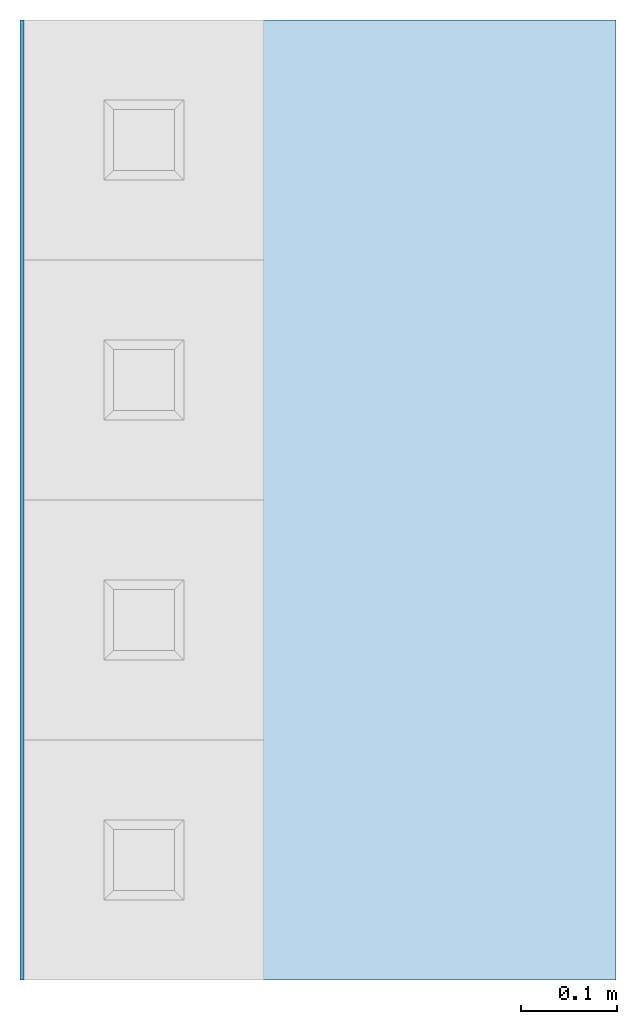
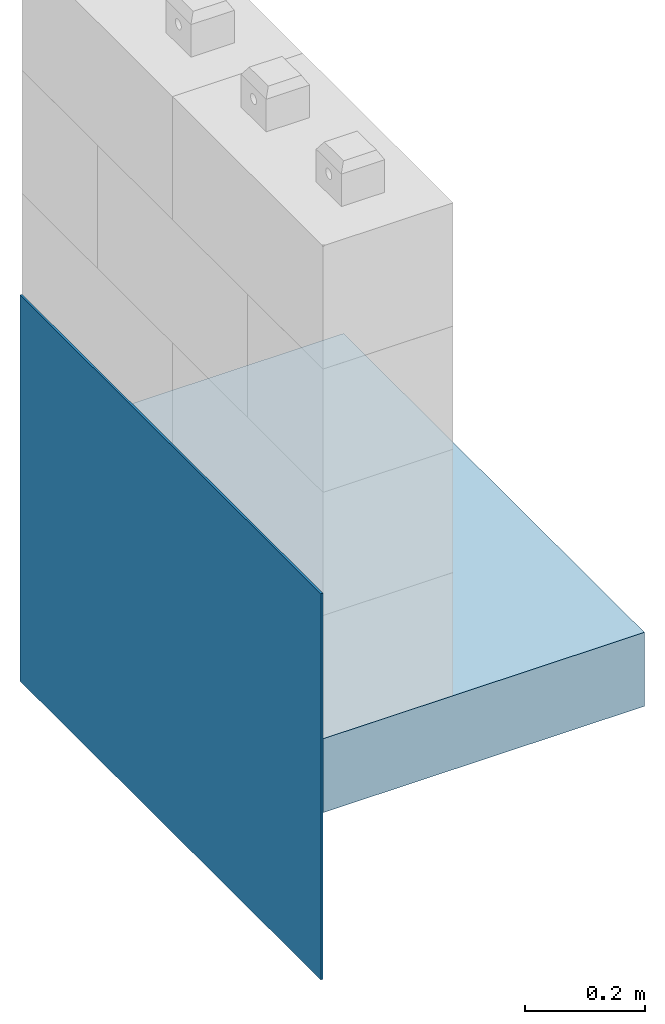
# One storey, incomplete: 1 slab, 1 wall.
"""IFC4 building model written with IfcOpenShell, lengths in centimetres."""

from ifc_helpers import new_model, entity, si_unit, converted_unit, direction, frame, origin, place, context, subcontext, project, spatial, indexed_curve, outline, extrude, material, constituent, constituent_set, type_object, element, save


model = new_model("IFC4")

# Units and contexts
model_context = context("Model", 3, precision=0.001, world=origin(), true_north=direction((0.0, 1.0)))
body_context = subcontext(model_context, "Body", "Model", "MODEL_VIEW")
ifc_project = project(units=[si_unit("LENGTHUNIT", "METRE", prefix="CENTI"), si_unit("AREAUNIT", "SQUARE_METRE"), si_unit("VOLUMEUNIT", "CUBIC_METRE"), converted_unit("PLANEANGLEUNIT", "DEGREE", entity("IfcPlaneAngleMeasure", 0.017453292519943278), si_unit("PLANEANGLEUNIT", "RADIAN"), dimensions=[0, 0, 0, 0, 0, 0, 0])], contexts=[model_context])

# Site, building, storey
site_placement = place(None, origin())
site = spatial("IfcSite", under=ifc_project, at=site_placement, Name="Default", CompositionType="ELEMENT")
building_placement = place(site_placement, origin())
building = spatial("IfcBuilding", under=site, at=building_placement, CompositionType="ELEMENT")
storey_placement = place(building_placement, frame((0.0, 0.0, -12.0)))
storey = spatial("IfcBuildingStorey", under=building, at=storey_placement, Name="L00__ABOVE Slab", CompositionType="ELEMENT", Elevation=-12.000000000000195)

# Slab
ifc_material_1 = material(Name="_STRUCTURE__Reinforced Concrete")
slab_type = type_object("IfcSlabType", Name="Floors : Floor : flr__STRUCTURE__Reinforced Concrete 15cm", PredefinedType="FLOOR", material=ifc_material_1)
slab_placement = place(storey_placement, origin())
element("IfcSlab", 1, at=slab_placement, inside=storey, type_object=slab_type, material=ifc_material_1, Name="Floors : Floor : flr__STRUCTURE__Reinforced Concrete 15cm", PredefinedType="FLOOR", context=body_context, shape_type="SweptSolid", body=[
    extrude(outline(indexed_curve([(-50.0, -30.85000000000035), (50.0, -30.85000000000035), (50.0, 30.850000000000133), (-50.0, 30.850000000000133), (-50.0, -30.85000000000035)], self_intersect=False)), frame((1663.9994566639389, 269.3718731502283, 7.500000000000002), z_axis=(0.0, 0.0, -1.0), x_axis=(0.0, 1.0, 0.0)), (0.0, 0.0, 1.0), 15.000000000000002),
])

# Wall
ifc_material_2 = material(Name="_WLL & CLG FINISHES__Spray-cork", Category="플라스틱")
ifc_constituent = constituent(ifc_material_2, Name="_WLL & CLG FINISHES__Spray-cork", Category="플라스틱", fraction=1.0)
ifc_constituent_set = constituent_set(constituents=[ifc_constituent], Name="Basic Wall:wll__INT FINISH__Spritzkork 0.4cm__TriqBriq, TN.1")
wall_type = type_object("IfcWallType", Name="Walls : Basic Wall : wll__INT FINISH__Spritzkork 0.4cm__TriqBriq, TN.1", PredefinedType="STANDARD", material=ifc_constituent_set)
wall_placement = place(storey_placement, frame((1632.9494566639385, 319.3718731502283, -41.29664855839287), z_axis=(0.0, 0.0, 1.0), x_axis=(0.0, -1.0, 0.0)))
element("IfcWall", 2, at=wall_placement, inside=storey, type_object=wall_type, material=ifc_constituent_set, Name="Walls : Basic Wall : wll__INT FINISH__Spritzkork 0.4cm__TriqBriq, TN.1", PredefinedType="NOTDEFINED", context=body_context, shape_type="SweptSolid", body=[
    extrude(outline(indexed_curve([(100.0, 0.19999999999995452), (4.3314685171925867e-16, 0.19999999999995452), (-4.3314685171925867e-16, -0.19999999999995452), (100.0, -0.19999999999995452), (100.0, 0.19999999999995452)], self_intersect=False)), origin(), (0.0, 0.0, 1.0), 78.34966148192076),
])

save(model, "model.ifc")
